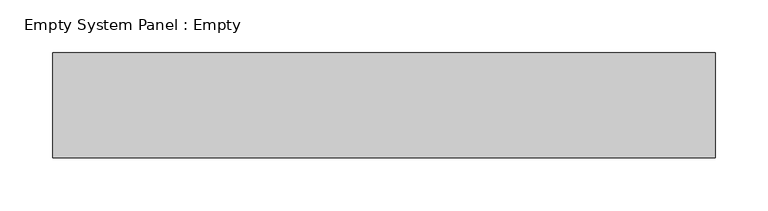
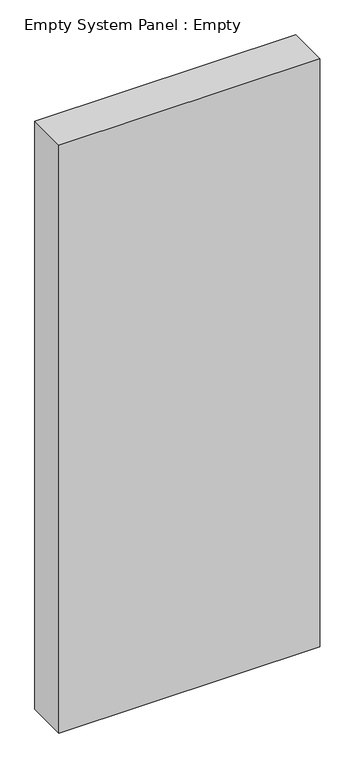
"""IFC4 building model written with IfcOpenShell, lengths in millimetres: plate geometry, Empty System Panel : Empty."""

import ifcopenshell
import ifcopenshell.guid

model = None  # the IFC model being written
_history = None  # IfcOwnerHistory: only IFC2X3 demands one
_inside = {}  # id of a spatial element -> (the spatial element, [elements in it])
_under = {}  # id of a project, library or spatial element -> (it, [spatial elements below it])
_declared = {}  # id of a project -> (the project, [libraries it declares])
_typed = {}  # id of a type object -> (the type object, [elements of that type])
_made_of = {}  # id of a material, layer set ... -> (it, [elements and type objects made of it])


def new_model(schema):
    """Start an empty IFC model of exactly this schema.

    Asked for "IFC4X3", IfcOpenShell would pick the latest addendum, in which some entities
    have other attributes; the version numbers below select the first issue.
    IFC2X3 requires an IfcOwnerHistory on every rooted entity: one is made here for all.
    """
    global model, _history
    if schema == "IFC4X3":
        model = ifcopenshell.file(schema_version=(4, 3, 0, 0))
    else:
        model = ifcopenshell.file(schema=schema)
    _inside.clear()
    _under.clear()
    _declared.clear()
    _typed.clear()
    _made_of.clear()
    _history = None
    if model.schema == "IFC2X3":
        org = make("IfcOrganization", Name="unknown")
        user = make(
            "IfcPersonAndOrganization",
            ThePerson=make("IfcPerson", FamilyName="unknown"),
            TheOrganization=org,
        )
        app = make(
            "IfcApplication",
            ApplicationDeveloper=org,
            Version="unknown",
            ApplicationFullName="unknown",
            ApplicationIdentifier="unknown",
        )
        _history = make(
            "IfcOwnerHistory",
            OwningUser=user,
            OwningApplication=app,
            ChangeAction="ADDED",
            CreationDate=0,
        )
    return model


def make(cls, **values):
    """One entity of the class cls with the attributes given. An attribute that is None is left unset."""
    return model.create_entity(
        cls, **{name: value for name, value in values.items() if value is not None}
    )


def rooted(cls, **values):
    """An entity with a GlobalId (a new one), such as an element, a storey or a relation."""
    return make(cls, GlobalId=ifcopenshell.guid.new(), OwnerHistory=_history, **values)


def si_unit(unit_type, name, prefix=None):
    """IfcSIUnit, for example si_unit("LENGTHUNIT", "METRE", prefix="MILLI")."""
    return make("IfcSIUnit", UnitType=unit_type, Prefix=prefix, Name=name)


def assignment(units):
    """IfcUnitAssignment: the units of a project."""
    return None if units is None else make("IfcUnitAssignment", Units=units)


def point(xyz):
    """IfcCartesianPoint."""
    return None if xyz is None else make("IfcCartesianPoint", Coordinates=xyz)


def direction(xyz):
    """IfcDirection."""
    return None if xyz is None else make("IfcDirection", DirectionRatios=xyz)


def frame(location, z_axis=None, x_axis=None):
    """IfcAxis2Placement3D, a coordinate frame: its origin and axes. An axis left out is left unset."""
    return make(
        "IfcAxis2Placement3D",
        Location=point(location),
        Axis=direction(z_axis),
        RefDirection=direction(x_axis),
    )


def origin():
    """The frame at (0, 0, 0) with its axes left unset."""
    return frame((0.0, 0.0, 0.0))


def origin_with_axes():
    """The frame at (0, 0, 0) with the z axis (0, 0, 1) and the x axis (1, 0, 0) written out."""
    return frame((0.0, 0.0, 0.0), z_axis=(0.0, 0.0, 1.0), x_axis=(1.0, 0.0, 0.0))


def place(relative_to, where):
    """IfcLocalPlacement: puts the frame where relative to a parent placement (None: the world)."""
    return make(
        "IfcLocalPlacement", PlacementRelTo=relative_to, RelativePlacement=where
    )


def context(
    kind, dimensions, precision=None, world=None, true_north=None, identifier=None
):
    """IfcGeometricRepresentationContext, for example the 3D "Model" context."""
    return make(
        "IfcGeometricRepresentationContext",
        ContextIdentifier=identifier,
        ContextType=kind,
        CoordinateSpaceDimension=dimensions,
        Precision=precision,
        WorldCoordinateSystem=world,
        TrueNorth=true_north,
    )


def project(units=None, contexts=None):
    """IfcProject with its units and contexts."""
    return rooted(
        "IfcProject",
        Name="project",
        RepresentationContexts=contexts,
        UnitsInContext=assignment(units),
    )


def spatial(cls, under=None, at=None, **own):
    """A site, building, storey or space (cls), placed at a placement, below another one or the project."""
    s = rooted(cls, ObjectPlacement=at, **own)
    if under is not None:
        _under.setdefault(under.id(), (under, []))[1].append(s)
    return s


def polyline(points):
    """IfcPolyline through the points."""
    return make("IfcPolyline", Points=[point(p) for p in points])


def outline(outer, holes=None, kind="AREA"):
    """IfcArbitraryClosedProfileDef: a profile drawn as a closed curve; with holes, ...WithVoids."""
    if holes is None:
        return make("IfcArbitraryClosedProfileDef", ProfileType=kind, OuterCurve=outer)
    return make(
        "IfcArbitraryProfileDefWithVoids",
        ProfileType=kind,
        OuterCurve=outer,
        InnerCurves=holes,
    )


def extrude(swept, where, along, depth):
    """IfcExtrudedAreaSolid: the profile swept, set in the frame where, extruded along a direction by depth."""
    return make(
        "IfcExtrudedAreaSolid",
        SweptArea=swept,
        Position=where,
        ExtrudedDirection=direction(along),
        Depth=depth,
    )


def shape(context_of_items, identifier, shape_type, items):
    """IfcShapeRepresentation: the items that make up one representation, for example the "Body"."""
    return make(
        "IfcShapeRepresentation",
        ContextOfItems=context_of_items,
        RepresentationIdentifier=identifier,
        RepresentationType=shape_type,
        Items=items,
    )


def source(mapping_origin, context_of_items, identifier, shape_type, items):
    """IfcRepresentationMap: a shape defined once, which mapped items show again and again."""
    return make(
        "IfcRepresentationMap",
        MappingOrigin=mapping_origin,
        MappedRepresentation=shape(context_of_items, identifier, shape_type, items),
    )


def transform(
    local_origin,
    x_axis=None,
    y_axis=None,
    z_axis=None,
    scale=None,
    scale2=None,
    scale3=None,
    uniform=True,
):
    """IfcCartesianTransformationOperator3D, or its non-uniform kind. x_axis, y_axis, z_axis: its Axis1, 2, 3."""
    if uniform:
        return make(
            "IfcCartesianTransformationOperator3D",
            Axis1=direction(x_axis),
            Axis2=direction(y_axis),
            LocalOrigin=point(local_origin),
            Scale=scale,
            Axis3=direction(z_axis),
        )
    return make(
        "IfcCartesianTransformationOperator3DnonUniform",
        Axis1=direction(x_axis),
        Axis2=direction(y_axis),
        LocalOrigin=point(local_origin),
        Scale=scale,
        Axis3=direction(z_axis),
        Scale2=scale2,
        Scale3=scale3,
    )


def mapped(mapping_source, mapping_target):
    """IfcMappedItem: shows the shape of a source again, moved by a transform."""
    return make(
        "IfcMappedItem", MappingSource=mapping_source, MappingTarget=mapping_target
    )


def made_of(thing, what):
    """Note that an element or type object is made of a material, layer set ...; save() writes the relation."""
    if what is not None:
        _made_of.setdefault(what.id(), (what, []))[1].append(thing)
    return thing


def element(
    cls,
    number,
    at=None,
    inside=None,
    cuts=None,
    type_object=None,
    material=None,
    context=None,
    identifier="Body",
    shape_type=None,
    held_by="IfcProductDefinitionShape",
    body=None,
    shapes=None,
    **own,
):
    """One element of the class cls, such as IfcWall. Its Tag is "e" and its number.

    at: its placement. inside: the storey or other place that contains it. cuts: it is an
    opening in that element (IfcRelVoidsElement). A single representation is given by context,
    identifier, shape_type and body (its items); several are given by shapes. held_by: the class
    of the entity that holds the representations. save() writes the other relations.
    """
    e = rooted(cls, Tag="e%d" % number, ObjectPlacement=at, **own)
    if body is not None:
        shapes = [shape(context, identifier, shape_type, body)]
    if shapes is not None:
        e.Representation = make(held_by, Representations=shapes)
    if inside is not None:
        _inside.setdefault(inside.id(), (inside, []))[1].append(e)
    if cuts is not None:
        rooted(
            "IfcRelVoidsElement", RelatingBuildingElement=cuts, RelatedOpeningElement=e
        )
    if type_object is not None:
        _typed.setdefault(type_object.id(), (type_object, []))[1].append(e)
    return made_of(e, material)


def aggregate(whole, parts):
    """IfcRelAggregates: a whole, such as a stair, and the parts it consists of."""
    return rooted("IfcRelAggregates", RelatingObject=whole, RelatedObjects=parts)


def save(model, path):
    """Write the relations noted so far, then the file.

    IfcRelAggregates (storeys below a building ...), IfcRelContainedInSpatialStructure (elements
    in a storey), IfcRelDefinesByType, IfcRelAssociatesMaterial and IfcRelDeclares: one each for
    every whole, place, type object, material and project.
    """
    for whole, parts in _under.values():
        aggregate(whole, parts)
    for where, things in _inside.values():
        rooted(
            "IfcRelContainedInSpatialStructure",
            RelatedElements=things,
            RelatingStructure=where,
        )
    for kind, things in _typed.values():
        rooted("IfcRelDefinesByType", RelatedObjects=things, RelatingType=kind)
    for what, things in _made_of.values():
        rooted("IfcRelAssociatesMaterial", RelatedObjects=things, RelatingMaterial=what)
    for by, libraries in _declared.values():
        rooted("IfcRelDeclares", RelatingContext=by, RelatedDefinitions=libraries)
    model.write(path)


def empty_system_panel_empty_8161270b(model_context):
    return source(origin(), model_context, "Body", "SweptSolid", [
        extrude(outline(polyline([(315.0, -150.0), (-315.0, -150.0), (-315.0, -50.0), (315.0, -50.0), (315.0, -150.0)])), origin_with_axes(), (0.0, 0.0, 1.0), 1500.0),
    ])


if __name__ == "__main__":
    model = new_model("IFC4")
    model_context = context("Model", 3, world=origin())
    ifc_project = project(units=[si_unit("LENGTHUNIT", "METRE", prefix="MILLI")], contexts=[model_context])
    site = spatial("IfcSite", under=ifc_project)
    building = spatial("IfcBuilding", under=site)
    placement = place(None, origin())
    empty_system_panel_empty_shape = empty_system_panel_empty_8161270b(model_context)
    element("IfcPlate", 1, ObjectType="Empty System Panel : Empty", at=placement, inside=building, context=model_context, shape_type="MappedRepresentation", body=[
        mapped(empty_system_panel_empty_shape, transform((0.0, 0.0, 0.0), x_axis=(1.0, 0.0, 0.0), y_axis=(0.0, 1.0, 0.0), z_axis=(0.0, 0.0, 1.0))),
    ])
    save(model, "model.ifc")
